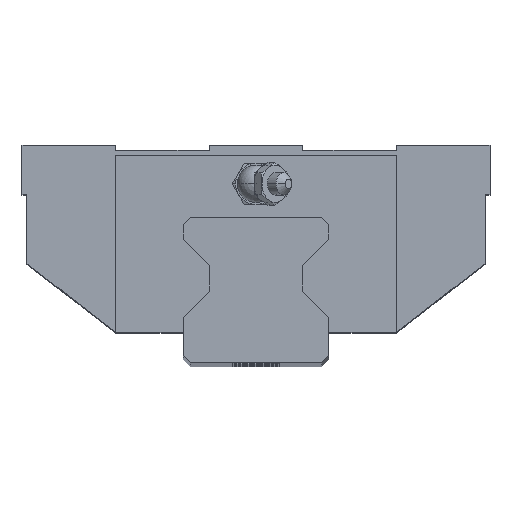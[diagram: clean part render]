
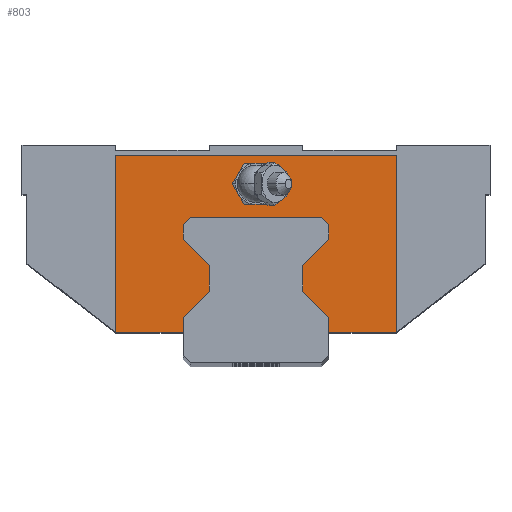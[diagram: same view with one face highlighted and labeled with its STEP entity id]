
A CAD part, top view. The second image highlights one B-rep face of the part: STEP entity #803.
In plain terms, the highlighted planar face has unit normal (0, 0, 1).
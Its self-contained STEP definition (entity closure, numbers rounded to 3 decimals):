
#803=ADVANCED_FACE('',(#1658,#1659),#1660,.T.);
#1658=FACE_BOUND('',#2560,.T.);
#1659=FACE_OUTER_BOUND('',#2561,.T.);
#1660=PLANE('',#2562);
#2560=EDGE_LOOP('',(#4824,#4825));
#2561=EDGE_LOOP('',(#4826,#4827,#4828,#4829,#4830,#4831,#4832,#4833,#4834,#4835,#4836,#4837,#4838,#4839,#4840,#4841,#4842,#4843));
#2562=AXIS2_PLACEMENT_3D('',#4844,#4845,#4846);
#4824=ORIENTED_EDGE('',*,*,#5232,.T.);
#4825=ORIENTED_EDGE('',*,*,#5971,.T.);
#4826=ORIENTED_EDGE('',*,*,#5978,.F.);
#4827=ORIENTED_EDGE('',*,*,#6111,.F.);
#4828=ORIENTED_EDGE('',*,*,#5206,.F.);
#4829=ORIENTED_EDGE('',*,*,#6026,.F.);
#4830=ORIENTED_EDGE('',*,*,#5196,.F.);
#4831=ORIENTED_EDGE('',*,*,#5394,.F.);
#4832=ORIENTED_EDGE('',*,*,#5980,.F.);
#4833=ORIENTED_EDGE('',*,*,#5469,.F.);
#4834=ORIENTED_EDGE('',*,*,#5863,.F.);
#4835=ORIENTED_EDGE('',*,*,#5615,.F.);
#4836=ORIENTED_EDGE('',*,*,#5849,.F.);
#4837=ORIENTED_EDGE('',*,*,#5911,.F.);
#4838=ORIENTED_EDGE('',*,*,#6049,.F.);
#4839=ORIENTED_EDGE('',*,*,#6120,.F.);
#4840=ORIENTED_EDGE('',*,*,#6036,.F.);
#4841=ORIENTED_EDGE('',*,*,#6017,.F.);
#4842=ORIENTED_EDGE('',*,*,#5498,.F.);
#4843=ORIENTED_EDGE('',*,*,#5786,.F.);
#4844=CARTESIAN_POINT('',(0.,24.268,-34.1));
#4845=DIRECTION('',(0.,0.,1.0));
#4846=DIRECTION('',(1.0,0.0,0.));
#5196=EDGE_CURVE('',#6179,#6181,#6182,.T.);
#5206=EDGE_CURVE('',#6197,#6199,#6200,.T.);
#5232=EDGE_CURVE('',#6239,#6243,#6245,.T.);
#5394=EDGE_CURVE('',#6526,#6179,#6528,.T.);
#5469=EDGE_CURVE('',#6651,#6653,#6654,.T.);
#5498=EDGE_CURVE('',#6702,#6704,#6705,.T.);
#5615=EDGE_CURVE('',#6888,#6890,#6891,.T.);
#5786=EDGE_CURVE('',#7139,#6702,#7141,.T.);
#5849=EDGE_CURVE('',#7224,#6888,#7226,.T.);
#5863=EDGE_CURVE('',#6890,#6651,#7247,.T.);
#5911=EDGE_CURVE('',#7309,#7224,#7311,.T.);
#5971=EDGE_CURVE('',#6243,#6239,#7385,.T.);
#5978=EDGE_CURVE('',#7391,#7139,#7393,.T.);
#5980=EDGE_CURVE('',#6653,#6526,#7395,.T.);
#6017=EDGE_CURVE('',#6704,#7438,#7439,.T.);
#6026=EDGE_CURVE('',#6181,#6197,#7448,.T.);
#6036=EDGE_CURVE('',#7438,#7462,#7463,.T.);
#6049=EDGE_CURVE('',#7475,#7309,#7477,.T.);
#6111=EDGE_CURVE('',#6199,#7391,#7546,.T.);
#6120=EDGE_CURVE('',#7462,#7475,#7555,.T.);
#6179=VERTEX_POINT('',#7618);
#6181=VERTEX_POINT('',#7621);
#6182=LINE('',#7622,#7623);
#6197=VERTEX_POINT('',#7644);
#6199=VERTEX_POINT('',#7647);
#6200=LINE('',#7648,#7649);
#6239=VERTEX_POINT('',#7702);
#6243=VERTEX_POINT('',#7707);
#6245=CIRCLE('',#7710,3.6);
#6526=VERTEX_POINT('',#8250);
#6528=LINE('',#8253,#8254);
#6651=VERTEX_POINT('',#8443);
#6653=VERTEX_POINT('',#8446);
#6654=LINE('',#8447,#8448);
#6702=VERTEX_POINT('',#8507);
#6704=VERTEX_POINT('',#8510);
#6705=LINE('',#8511,#8512);
#6888=VERTEX_POINT('',#8780);
#6890=VERTEX_POINT('',#8783);
#6891=LINE('',#8784,#8785);
#7139=VERTEX_POINT('',#9216);
#7141=LINE('',#9219,#9220);
#7224=VERTEX_POINT('',#9347);
#7226=LINE('',#9350,#9351);
#7247=LINE('',#9394,#9395);
#7309=VERTEX_POINT('',#9501);
#7311=LINE('',#9504,#9505);
#7385=CIRCLE('',#9609,3.6);
#7391=VERTEX_POINT('',#9617);
#7393=LINE('',#9620,#9621);
#7395=LINE('',#9623,#9624);
#7438=VERTEX_POINT('',#9704);
#7439=LINE('',#9705,#9706);
#7448=LINE('',#9719,#9720);
#7462=VERTEX_POINT('',#9736);
#7463=LINE('',#9737,#9738);
#7475=VERTEX_POINT('',#9773);
#7477=LINE('',#9776,#9777);
#7546=LINE('',#9885,#9886);
#7555=LINE('',#9895,#9896);
#7618=CARTESIAN_POINT('',(9.0,18.8,-34.1));
#7621=CARTESIAN_POINT('',(14.0,23.8,-34.1));
#7622=CARTESIAN_POINT('',(9.0,18.8,-34.1));
#7623=VECTOR('',#9956,1000.0);
#7644=CARTESIAN_POINT('',(14.0,26.6,-34.1));
#7647=CARTESIAN_POINT('',(12.6,28.0,-34.1));
#7648=CARTESIAN_POINT('',(14.0,26.6,-34.1));
#7649=VECTOR('',#9964,1000.0);
#7702=CARTESIAN_POINT('',(3.6,34.5,-34.1));
#7707=CARTESIAN_POINT('',(-3.6,34.5,-34.1));
#7710=AXIS2_PLACEMENT_3D('',#9993,#9994,#9995);
#8250=CARTESIAN_POINT('',(9.0,13.8,-34.1));
#8253=CARTESIAN_POINT('',(9.0,13.8,-34.1));
#8254=VECTOR('',#10181,1000.0);
#8443=CARTESIAN_POINT('',(14.0,6.0,-34.1));
#8446=CARTESIAN_POINT('',(14.0,8.8,-34.1));
#8447=CARTESIAN_POINT('',(14.0,6.0,-34.1));
#8448=VECTOR('',#10275,1000.0);
#8507=CARTESIAN_POINT('',(-14.0,23.8,-34.1));
#8510=CARTESIAN_POINT('',(-9.0,18.8,-34.1));
#8511=CARTESIAN_POINT('',(-14.0,23.8,-34.1));
#8512=VECTOR('',#10318,1000.0);
#8780=CARTESIAN_POINT('',(27.0,40.0,-34.1));
#8783=CARTESIAN_POINT('',(27.0,6.0,-34.1));
#8784=CARTESIAN_POINT('',(27.0,40.0,-34.1));
#8785=VECTOR('',#10499,1000.0);
#9216=CARTESIAN_POINT('',(-14.0,26.6,-34.1));
#9219=CARTESIAN_POINT('',(-14.0,26.6,-34.1));
#9220=VECTOR('',#10696,1000.0);
#9347=CARTESIAN_POINT('',(-27.0,40.0,-34.1));
#9350=CARTESIAN_POINT('',(-27.0,40.0,-34.1));
#9351=VECTOR('',#10767,1000.0);
#9394=CARTESIAN_POINT('',(27.0,6.0,-34.1));
#9395=VECTOR('',#10785,1000.0);
#9501=CARTESIAN_POINT('',(-27.0,6.0,-34.1));
#9504=CARTESIAN_POINT('',(-27.0,6.0,-34.1));
#9505=VECTOR('',#10832,1000.0);
#9609=AXIS2_PLACEMENT_3D('',#10900,#10901,#10902);
#9617=CARTESIAN_POINT('',(-12.6,28.0,-34.1));
#9620=CARTESIAN_POINT('',(-12.6,28.0,-34.1));
#9621=VECTOR('',#10906,1000.0);
#9623=CARTESIAN_POINT('',(14.0,8.8,-34.1));
#9624=VECTOR('',#10907,1000.0);
#9704=CARTESIAN_POINT('',(-9.0,13.8,-34.1));
#9705=CARTESIAN_POINT('',(-9.0,18.8,-34.1));
#9706=VECTOR('',#10948,1000.0);
#9719=CARTESIAN_POINT('',(14.0,23.8,-34.1));
#9720=VECTOR('',#10953,1000.0);
#9736=CARTESIAN_POINT('',(-14.0,8.8,-34.1));
#9737=CARTESIAN_POINT('',(-9.0,13.8,-34.1));
#9738=VECTOR('',#10968,1000.0);
#9773=CARTESIAN_POINT('',(-14.0,6.0,-34.1));
#9776=CARTESIAN_POINT('',(-27.0,6.0,-34.1));
#9777=VECTOR('',#10980,1000.0);
#9885=CARTESIAN_POINT('',(12.6,28.0,-34.1));
#9886=VECTOR('',#11031,1000.0);
#9895=CARTESIAN_POINT('',(-14.0,8.8,-34.1));
#9896=VECTOR('',#11041,1000.0);
#9956=DIRECTION('',(0.707,0.707,0.0));
#9964=DIRECTION('',(-0.707,0.707,0.0));
#9993=CARTESIAN_POINT('',(0.0,34.5,-34.1));
#9994=DIRECTION('',(0.,0.,-1.0));
#9995=DIRECTION('',(1.0,0.,0.));
#10181=DIRECTION('',(0.0,1.0,0.0));
#10275=DIRECTION('',(0.0,1.0,0.0));
#10318=DIRECTION('',(0.707,-0.707,0.0));
#10499=DIRECTION('',(0.0,-1.0,0.0));
#10696=DIRECTION('',(0.0,-1.0,0.0));
#10767=DIRECTION('',(1.0,0.0,0.0));
#10785=DIRECTION('',(-1.0,0.0,0.0));
#10832=DIRECTION('',(0.0,1.0,0.0));
#10900=CARTESIAN_POINT('',(0.0,34.5,-34.1));
#10901=DIRECTION('',(0.,0.,-1.0));
#10902=DIRECTION('',(1.0,0.,0.));
#10906=DIRECTION('',(-0.707,-0.707,0.0));
#10907=DIRECTION('',(-0.707,0.707,0.0));
#10948=DIRECTION('',(0.0,-1.0,0.0));
#10953=DIRECTION('',(0.0,1.0,0.0));
#10968=DIRECTION('',(-0.707,-0.707,0.0));
#10980=DIRECTION('',(-1.0,-0.0,-0.0));
#11031=DIRECTION('',(-1.0,0.0,0.0));
#11041=DIRECTION('',(0.0,-1.0,0.0));
